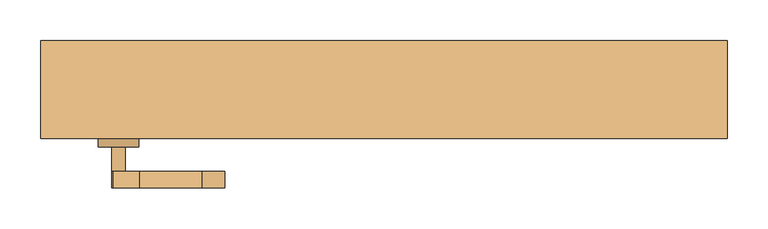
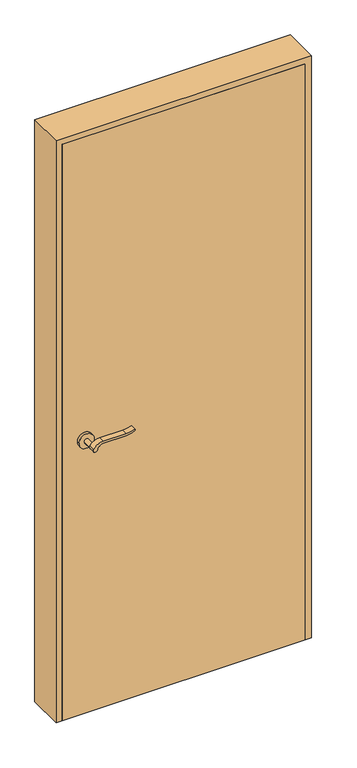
"""IFC4 building model written with IfcOpenShell, lengths in millimetres: door geometry."""

from ifc_helpers import new_model, si_unit, point, frame, frame_2d, origin, origin_with_axes, place, context, project, spatial, polyline, circle_curve, trimmed, segment, composite_curve, outline, extrude, source, transform, mapped, element, save


def door_8f2de950(model_context):
    return source(origin(), model_context, "Body", "SweptSolid", [
        extrude(outline(composite_curve([segment(trimmed(circle_curve(frame_2d((950.0, -325.0)), 8.0), [point((954.6523287, -331.5081363))], [point((950.0, -317.0))], False, "CARTESIAN"), True, "CONTINUOUS"), segment(trimmed(circle_curve(frame_2d((944.8738613, -299.6138099)), 18.1261387), [point((950.0, -317.0))], [point((963.0, -299.6138099))], True, "CARTESIAN"), True, "CONTINUOUS"), segment(polyline([(963.0, -299.6138099), (963.0, -223.3564091)]), True, "CONTINUOUS"), segment(trimmed(circle_curve(frame_2d((1022.2709207, -226.9396612)), 59.3791355), [point((963.0, -223.3564091))], [point((972.2135558, -195.0))], False, "CARTESIAN"), True, "CONTINUOUS"), segment(polyline([(972.2135558, -195.0), (975.0, -195.0)]), True, "CONTINUOUS"), segment(trimmed(circle_curve(frame_2d((1053.2850638, -223.4227909)), 83.2850902), [point((975.0, -195.0))], [point((970.0, -223.3564091))], True, "CARTESIAN"), True, "CONTINUOUS"), segment(polyline([(970.0, -223.3564091), (970.0, -299.6325667)]), True, "CONTINUOUS"), segment(trimmed(circle_curve(frame_2d((932.7555521, -301.3324871)), 37.2832219), [point((970.0, -299.6325667))], [point((954.6523287, -331.5081363))], False, "CARTESIAN"), True, "CONTINUOUS")], self_intersect=False)), frame((0.0, -120.0, 0.0), z_axis=(0.0, 1.0, 0.0), x_axis=(0.0, 0.0, 1.0)), (0.0, 0.0, 1.0), 20.0),
        extrude(outline(composite_curve([segment(trimmed(circle_curve(frame_2d((944.8738682, -299.6138122)), 18.1261318), [point((949.9999903, -317.0))], [point((963.0, -299.6138122))], True, "CARTESIAN"), True, "CONTINUOUS"), segment(polyline([(963.0, -299.6138122), (963.0, -223.3564091)]), True, "CONTINUOUS"), segment(trimmed(circle_curve(frame_2d((1022.2709207, -226.9396612)), 59.3791355), [point((963.0, -223.3564091))], [point((972.2135558, -195.0))], False, "CARTESIAN"), True, "CONTINUOUS"), segment(polyline([(972.2135558, -195.0), (975.0, -195.0)]), True, "CONTINUOUS"), segment(trimmed(circle_curve(frame_2d((1053.2850638, -223.4227909)), 83.2850902), [point((975.0, -195.0))], [point((970.0, -223.3564091))], True, "CARTESIAN"), True, "CONTINUOUS"), segment(polyline([(970.0, -223.3564091), (970.0, -299.6325667)]), True, "CONTINUOUS"), segment(trimmed(circle_curve(frame_2d((932.7555521, -301.3324871)), 37.2832219), [point((970.0, -299.6325667))], [point((954.6523287, -331.5081363))], False, "CARTESIAN"), True, "CONTINUOUS"), segment(trimmed(circle_curve(frame_2d((950.0, -325.0)), 8.0), [point((954.6523287, -331.5081363))], [point((949.9999903, -317.0))], False, "CARTESIAN"), True, "CONTINUOUS")], self_intersect=False)), frame((0.0, 10.0, 0.0), z_axis=(0.0, 1.0, 0.0), x_axis=(0.0, 0.0, 1.0)), (0.0, 0.0, 1.0), 20.0),
        extrude(outline(composite_curve([segment(trimmed(circle_curve(frame_2d((950.0, -325.0)), 8.0), [point((950.0, -333.0))], [point((950.0, -317.0))], False, "CARTESIAN"), True, "CONTINUOUS"), segment(trimmed(circle_curve(frame_2d((950.0, -325.0)), 8.0), [point((950.0, -317.0))], [point((950.0, -333.0))], False, "CARTESIAN"), True, "CONTINUOUS")], self_intersect=False)), frame((0.0, -100.0, 0.0), z_axis=(0.0, 1.0, 0.0), x_axis=(0.0, 0.0, 1.0)), (0.0, 0.0, 1.0), 30.0),
        extrude(outline(composite_curve([segment(trimmed(circle_curve(frame_2d((950.0, -325.0)), 8.0), [point((950.0, -333.0))], [point((950.0, -317.0))], False, "CARTESIAN"), True, "CONTINUOUS"), segment(trimmed(circle_curve(frame_2d((950.0, -325.0)), 8.0), [point((950.0, -317.0))], [point((950.0, -333.0))], False, "CARTESIAN"), True, "CONTINUOUS")], self_intersect=False)), frame((0.0, -20.0, 0.0), z_axis=(0.0, 1.0, 0.0), x_axis=(0.0, 0.0, 1.0)), (0.0, 0.0, 1.0), 30.0),
        extrude(outline(composite_curve([segment(trimmed(circle_curve(frame_2d((950.0, -325.0)), 25.0), [point((950.0, -350.0))], [point((950.0, -300.0))], False, "CARTESIAN"), True, "CONTINUOUS"), segment(trimmed(circle_curve(frame_2d((950.0, -325.0)), 25.0), [point((950.0, -300.0))], [point((950.0, -350.0))], False, "CARTESIAN"), True, "CONTINUOUS")], self_intersect=False)), frame((0.0, -70.0, 0.0), z_axis=(0.0, 1.0, 0.0), x_axis=(0.0, 0.0, 1.0)), (0.0, 0.0, 1.0), 10.0),
        extrude(outline(composite_curve([segment(trimmed(circle_curve(frame_2d((950.0, -325.0)), 25.0), [point((950.0, -350.0))], [point((950.0, -300.0))], False, "CARTESIAN"), True, "CONTINUOUS"), segment(trimmed(circle_curve(frame_2d((950.0, -325.0)), 25.0), [point((950.0, -300.0))], [point((950.0, -350.0))], False, "CARTESIAN"), True, "CONTINUOUS")], self_intersect=False)), frame((0.0, -30.0, 0.0), z_axis=(0.0, 1.0, 0.0), x_axis=(0.0, 0.0, 1.0)), (0.0, 0.0, 1.0), 10.0),
        extrude(outline(polyline([(2020.0, -420.0), (0.0, -420.0), (0.0, -400.0), (2000.0, -400.0), (2000.0, 400.0), (0.0, 400.0), (0.0, 420.0), (2020.0, 420.0), (2020.0, -420.0)])), frame((0.0, -60.0, 0.0), z_axis=(0.0, 1.0, 0.0), x_axis=(0.0, 0.0, 1.0)), (0.0, 0.0, 1.0), 120.0),
        extrude(outline(polyline([(400.0, -30.0), (400.0, -60.0), (-400.0, -60.0), (-400.0, -30.0), (400.0, -30.0)])), origin_with_axes(), (0.0, 0.0, 1.0), 2000.0),
    ])


if __name__ == "__main__":
    model = new_model("IFC4")
    model_context = context("Model", 3, world=origin())
    ifc_project = project(units=[si_unit("LENGTHUNIT", "METRE", prefix="MILLI")], contexts=[model_context])
    site = spatial("IfcSite", under=ifc_project)
    building = spatial("IfcBuilding", under=site)
    placement = place(None, origin())
    door_shape = door_8f2de950(model_context)
    element("IfcDoor", 1, ObjectType="木製_片開き_フラッシュ : WD-1\u3000w800h2000", at=placement, inside=building, context=model_context, shape_type="MappedRepresentation", body=[
        mapped(door_shape, transform((0.0, 0.0, 0.0), x_axis=(1.0, 0.0, 0.0), y_axis=(0.0, 1.0, 0.0), z_axis=(0.0, 0.0, 1.0))),
    ])
    save(model, "model.ifc")
